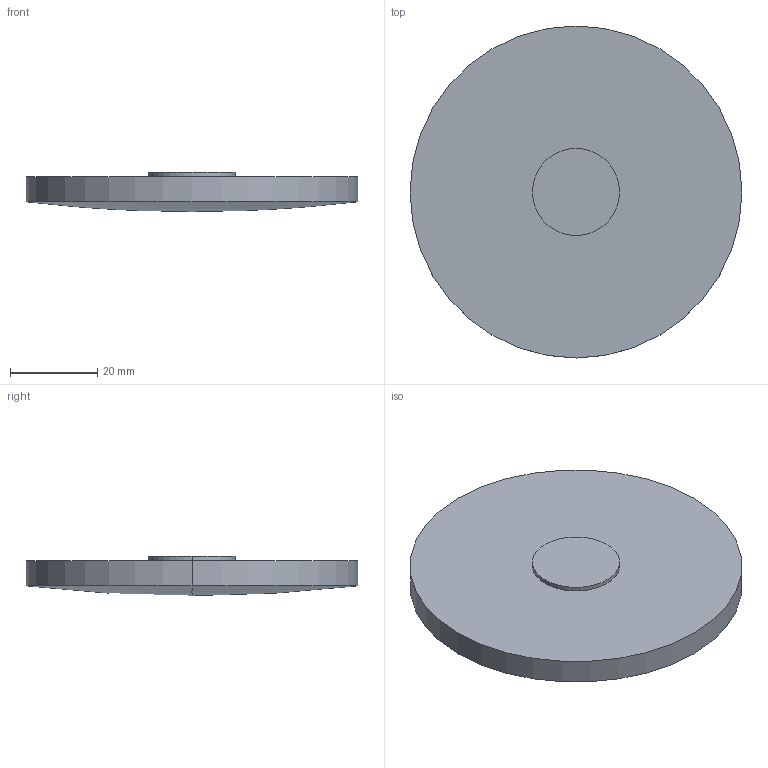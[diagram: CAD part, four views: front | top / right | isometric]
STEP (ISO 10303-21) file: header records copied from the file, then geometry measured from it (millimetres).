
FILE_DESCRIPTION(('STEP AP214'),'1');
FILE_NAME('LL-76-475.STEP','2020-03-09T17:41:20',(' '),(' '),'Spatial InterOp 3D',' ',' ');
FILE_SCHEMA(('AUTOMOTIVE_DESIGN { 1 0 10303 214 1 1 1 1 }'));
Length unit declared in the file: millimetre
Products named in the file (1): 1
Bounding box: 76.2 x 76.2 x 9 mm (x, y, z)
Volume: 31711.4 mm3; surface area: 11208.1 mm2
Topology: 2 solids, 2 shells, 9 faces, 16 edges, 9 vertices
Faces by surface type: cylinder 4, plane 3, sphere 2
Entity records: 229 total; most frequent: DIRECTION 46, CARTESIAN_POINT 34, ORIENTED_EDGE 28, AXIS2_PLACEMENT_3D 21, EDGE_CURVE 14, CIRCLE 10, ADVANCED_FACE 9, FACE_OUTER_BOUND 9
